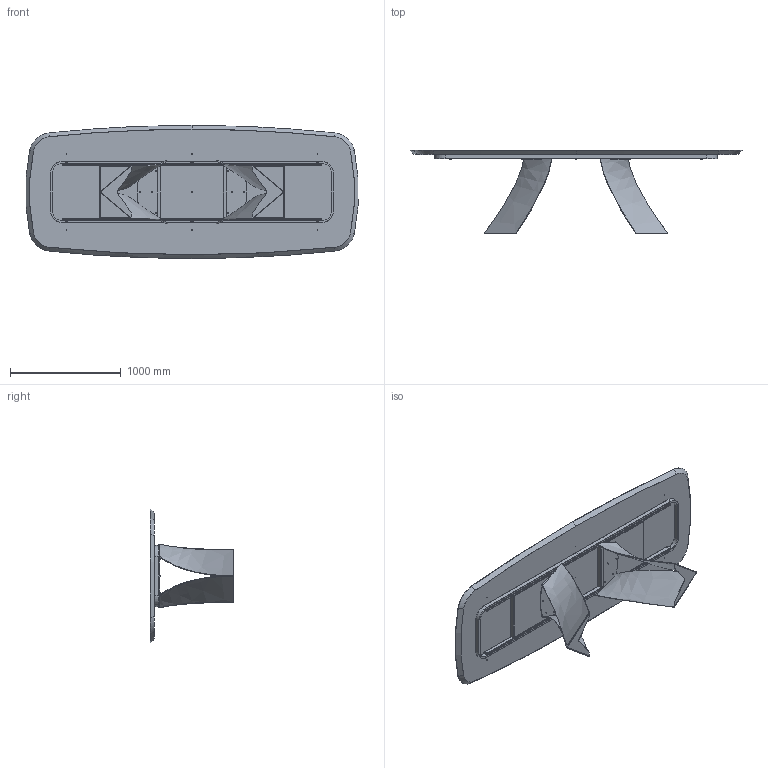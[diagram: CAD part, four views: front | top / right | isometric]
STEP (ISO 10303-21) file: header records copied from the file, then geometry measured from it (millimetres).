
FILE_DESCRIPTION (( 'STEP AP203' ), '1' );
FILE_NAME ('TW44W.STEP', '2024-08-07T12:29:13', ( '' ), ( '' ), 'SwSTEP 2.0', 'SolidWorks 2022', '' );
FILE_SCHEMA (( 'CONFIG_CONTROL_DESIGN' ));
Length unit declared in the file: millimetre
Products named in the file (10): TTAX03_02-00-VASSOIO IRRIGIDIMENTO TELAIO TWIST 300; TWS000000BAS-00-TWIST BASE GREZZA; TTAV10-00-TELAIO X TAVOLO TWIST 300 320cm; PIEDINO PLASTICA PER TWIST; TW44W; M8xXXmm_M8x55mm; M8xXXmm_M8x20mm; TTAX03_01-00-TELAIO UNIVERSALE X TWIST 300 320cm_Default<A macchina>; W4XCMXX-00-Piani Sagomati legno_3000 x 1200; rondella M8_8X16
Assembly tree (47 placements, depth 3):
  TW44W
    W4XCMXX-00-Piani Sagomati legno_3000 x 1200
    TWS000000BAS-00-TWIST BASE GREZZA  x2
    TTAV10-00-TELAIO X TAVOLO TWIST 300 320cm
      TTAX03_01-00-TELAIO UNIVERSALE X TWIST 300 320cm_Default<A macchina>
      TTAX03_02-00-VASSOIO IRRIGIDIMENTO TELAIO TWIST 300  x2
    M8xXXmm_M8x55mm  x6
    rondella M8_8X16  x18
    M8xXXmm_M8x20mm  x12
    PIEDINO PLASTICA PER TWIST  x4
Bounding box: 2991.72 x 753.37 x 1200 mm (x, y, z)
Volume: 136411078.3 mm3; surface area: 12921990.1 mm2
Topology: 63 solids, 63 shells, 1551 faces, 3620 edges, 2162 vertices
Faces by surface type: plane 582, cylinder 401, torus 257, cone 245, bspline 66
Entity records: 26047 total; most frequent: CARTESIAN_POINT 9508, DIRECTION 3144, ORIENTED_EDGE 2910, EDGE_CURVE 1455, AXIS2_PLACEMENT_3D 1206, VERTEX_POINT 931, LINE 732, VECTOR 732
